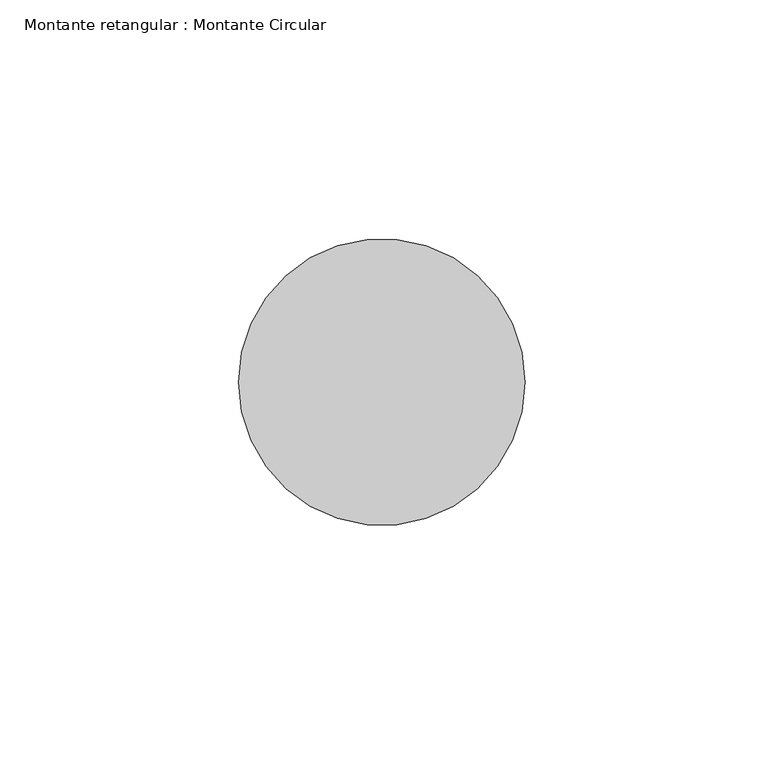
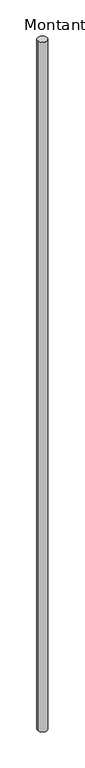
"""IFC4 building model written with IfcOpenShell, lengths in millimetres: member geometry, Montante retangular : Montante Circular."""

from ifc_helpers import new_model, si_unit, point, frame, frame_2d, origin, place, context, project, spatial, circle_curve, trimmed, segment, composite_curve, outline, extrude, source, transform, mapped, element, save


def montante_retangular_montante_circular_5da571e1(model_context):
    return source(origin(), model_context, "Body", "SweptSolid", [
        extrude(outline(composite_curve([segment(trimmed(circle_curve(frame_2d((-30.0, 0.0)), 30.0), [point((0.0, 0.0))], [point((-60.0, 0.0))], False, "CARTESIAN"), True, "CONTINUOUS"), segment(trimmed(circle_curve(frame_2d((-30.0, 0.0)), 30.0), [point((-60.0, 0.0))], [point((0.0, 0.0))], False, "CARTESIAN"), True, "CONTINUOUS")], self_intersect=False)), frame((0.0, 0.0, -4600.0), z_axis=(0.0, 0.0, 1.0), x_axis=(1.0, 0.0, 0.0)), (0.0, 0.0, 1.0), 4600.0),
    ])


if __name__ == "__main__":
    model = new_model("IFC4")
    model_context = context("Model", 3, world=origin())
    ifc_project = project(units=[si_unit("LENGTHUNIT", "METRE", prefix="MILLI")], contexts=[model_context])
    site = spatial("IfcSite", under=ifc_project)
    building = spatial("IfcBuilding", under=site)
    placement = place(None, origin())
    montante_retangular_montante_circular_shape = montante_retangular_montante_circular_5da571e1(model_context)
    element("IfcMember", 1, ObjectType="Montante retangular : Montante Circular", at=placement, inside=building, context=model_context, shape_type="MappedRepresentation", body=[
        mapped(montante_retangular_montante_circular_shape, transform((0.0, 0.0, 0.0), x_axis=(1.0, 0.0, 0.0), y_axis=(0.0, 1.0, 0.0), z_axis=(0.0, 0.0, 1.0))),
    ])
    save(model, "model.ifc")
